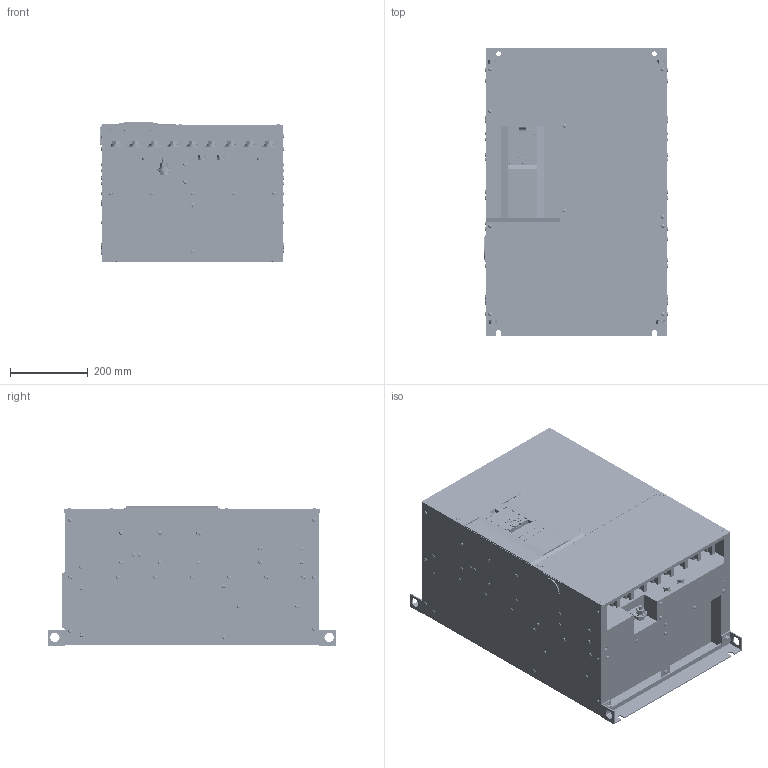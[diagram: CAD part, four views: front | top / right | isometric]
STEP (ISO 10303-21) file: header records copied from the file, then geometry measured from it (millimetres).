
FILE_DESCRIPTION((''),'2;1');
FILE_NAME('3D-INV-A8-01_16_ASM','2014-01-24T',('UJ56049'),(''),'PRO/ENGINEER BY PARAMETRIC TECHNOLOGY CORPORATION, 2011490','PRO/ENGINEER BY PARAMETRIC TECHNOLOGY CORPORATION, 2011490','');
FILE_SCHEMA(('CONFIG_CONTROL_DESIGN'));
Products named in the file (33): 3D-BASE-A8-01_16; 3D-WAKU-A8-01_16_ASM; 3D-ASHI_UPR-A8-01_16; 3D-BOLT-SW-PW-M10X25_; 3D-ASHI-UPR-BOLT-A8-01_16_ASM; 3D-ASHI_LWR-A8-01_16; 3D-ASHI-LWR-BOLT-A8-01_16_ASM; 3D-BUSH-A8; 3D-BUSH-A8_ASM; 3D-FAN_MMF-12D24DS_120-38-A8; 3D-FAN_ASSY-A8-01_16_ASM; 3D-FAN_COV-A8; 3D-FAN_COV-A8-01_16_ASM; 3D-TE_NEJI-M4X8_; 3D-TE_COV-R1S1_; 3D-TE_ASSY-R1S1_ASM; 3D-TA-A8; 3D-A8-TA_ASM; 3D-M12X30-A8; 3D-M12X30_S903N014P30_01-A8_ASM; 3D-RES-COVER-A8; 3D-TE_BOLT-A8-01_16_ASM; 3D-TE-BOLT-P-A8-01_16; 3D-TE_BOLT-P-A8-01_16_ASM; 3D-CA_COVER-A8; 3D-DU_ASSY-A8; 3D-IF_COV-A80; 3D-SC-PN-BD-M4X10-BZN-A8; 3D-CA_COV-A8_ASM; 3D-STE-COV_LWR-A8-01_16; 3D-SC-M4X10-BZN; 3D-COV_LWR-A8-01_16_ASM; 3D-INV-A8-01_16_ASM
Assembly tree (58 placements, depth 4):
  3D-INV-A8-01_16_ASM
    3D-WAKU-A8-01_16_ASM
      3D-BASE-A8-01_16
    3D-ASHI_UPR-A8-01_16
    3D-ASHI-UPR-BOLT-A8-01_16_ASM
      3D-BOLT-SW-PW-M10X25_  x2
    3D-ASHI_LWR-A8-01_16
    3D-ASHI-LWR-BOLT-A8-01_16_ASM
      3D-BOLT-SW-PW-M10X25_  x2
    3D-BUSH-A8_ASM
      3D-BUSH-A8
    3D-FAN_ASSY-A8-01_16_ASM
      3D-FAN_MMF-12D24DS_120-38-A8  x3
    3D-FAN_COV-A8-01_16_ASM
      3D-FAN_COV-A8  x3
    3D-BOLT-SW-PW-M10X25_  x2
    3D-TE_ASSY-R1S1_ASM
      3D-TE_NEJI-M4X8_  x4
      3D-TE_COV-R1S1_
    3D-A8-TA_ASM
      3D-TA-A8
    3D-TE_BOLT-A8-01_16_ASM
      3D-M12X30_S903N014P30_01-A8_ASM  x9
        3D-M12X30-A8
      3D-RES-COVER-A8  x3
    3D-TE_BOLT-P-A8-01_16_ASM
      3D-TE-BOLT-P-A8-01_16
    3D-CA_COV-A8_ASM
      3D-CA_COVER-A8
      3D-DU_ASSY-A8
      3D-IF_COV-A80
      3D-SC-PN-BD-M4X10-BZN-A8  x2
    3D-COV_LWR-A8-01_16_ASM
      3D-STE-COV_LWR-A8-01_16
      3D-SC-M4X10-BZN  x4
Bounding box: 471.7 x 740 x 359.2 mm (x, y, z)
Volume: 92022430.9 mm3; surface area: 3675259.5 mm2
Topology: 50 solids, 89 shells, 5744 faces, 15252 edges, 9960 vertices
Faces by surface type: plane 3748, cylinder 1511, torus 236, sphere 96, cone 90, bspline 63
Entity records: 136089 total; most frequent: CARTESIAN_POINT 24227, DIRECTION 23380, ORIENTED_EDGE 22784, EDGE_CURVE 11392, VECTOR 8106, LINE 8106, AXIS2_PLACEMENT_3D 7637, VERTEX_POINT 7496
